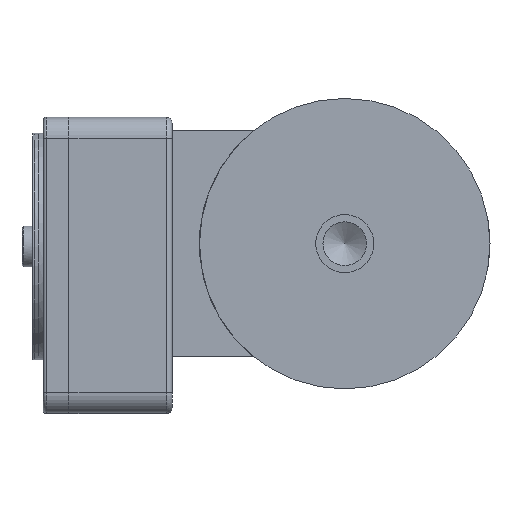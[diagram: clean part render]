
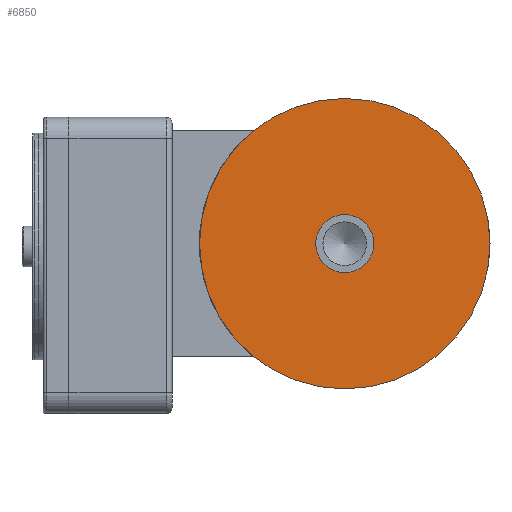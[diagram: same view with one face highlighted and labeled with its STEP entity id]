
A CAD part, front view. The second image highlights one B-rep face of the part: STEP entity #6850.
In plain terms, the highlighted planar face has unit normal (0, -1, 0).
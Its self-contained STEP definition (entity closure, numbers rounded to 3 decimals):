
#503=FACE_BOUND('',#1297,.T.);
#578=PLANE('',#7338);
#866=FACE_OUTER_BOUND('',#1296,.T.);
#1296=EDGE_LOOP('',(#4786));
#1297=EDGE_LOOP('',(#4787));
#2713=CIRCLE('',#7303,10.);
#2732=CIRCLE('',#7335,50.);
#3139=VERTEX_POINT('',#10405);
#3158=VERTEX_POINT('',#10463);
#3753=EDGE_CURVE('',#3139,#3139,#2713,.T.);
#3779=EDGE_CURVE('',#3158,#3158,#2732,.T.);
#4786=ORIENTED_EDGE('',*,*,#3779,.T.);
#4787=ORIENTED_EDGE('',*,*,#3753,.T.);
#6850=ADVANCED_FACE('',(#866,#503),#578,.T.);
#7303=AXIS2_PLACEMENT_3D('',#10406,#8160,#8161);
#7335=AXIS2_PLACEMENT_3D('',#10464,#8231,#8232);
#7338=AXIS2_PLACEMENT_3D('',#10470,#8238,#8239);
#8160=DIRECTION('center_axis',(0.,1.,0.));
#8161=DIRECTION('ref_axis',(1.,0.,0.));
#8231=DIRECTION('center_axis',(0.,-1.,0.));
#8232=DIRECTION('ref_axis',(1.,0.,0.));
#8238=DIRECTION('center_axis',(0.,-1.,0.));
#8239=DIRECTION('ref_axis',(0.,0.,-1.));
#10405=CARTESIAN_POINT('',(-10.,-63.5,0.));
#10406=CARTESIAN_POINT('Origin',(0.,-63.5,0.));
#10463=CARTESIAN_POINT('',(-50.,-63.5,0.));
#10464=CARTESIAN_POINT('Origin',(0.,-63.5,0.));
#10470=CARTESIAN_POINT('Origin',(0.,-63.5,0.));
